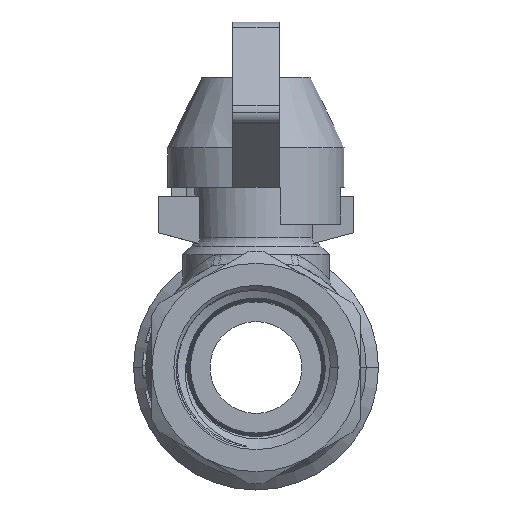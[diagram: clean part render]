
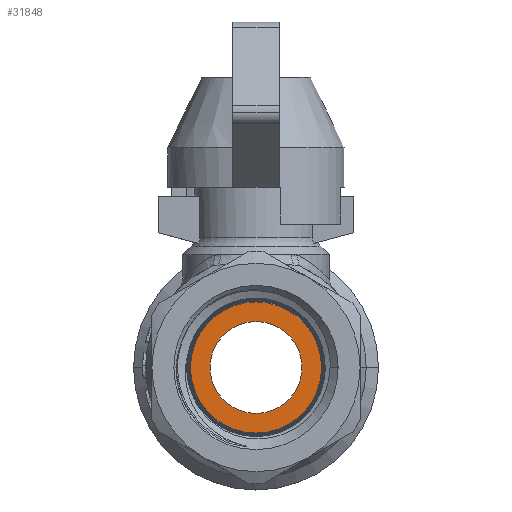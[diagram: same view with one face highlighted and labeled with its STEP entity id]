
A CAD part, left-side view. The second image highlights one B-rep face of the part: STEP entity #31848.
In plain terms, the highlighted planar face has unit normal (-1, 0, 0).
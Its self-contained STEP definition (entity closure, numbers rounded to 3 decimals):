
#5538 = VERTEX_POINT('',#5539);
#5539 = CARTESIAN_POINT('',(-9.,3.379,
    -2.339));
#5548 = CONICAL_SURFACE('',#5549,5.671,0.031);
#5549 = AXIS2_PLACEMENT_3D('',#5550,#5551,#5552);
#5550 = CARTESIAN_POINT('',(-19.468,8.73,
    -2.339));
#5551 = DIRECTION('',(-1.,0.,0.));
#5552 = DIRECTION('',(-0.,-1.,0.));
#5560 = CONICAL_SURFACE('',#5561,5.671,0.031);
#5561 = AXIS2_PLACEMENT_3D('',#5562,#5563,#5564);
#5562 = CARTESIAN_POINT('',(-19.468,8.73,
    -2.339));
#5563 = DIRECTION('',(-1.,0.,0.));
#5564 = DIRECTION('',(-0.,-1.,0.));
#5811 = VERTEX_POINT('',#5812);
#5812 = CARTESIAN_POINT('',(-9.,14.082,
    -2.339));
#5833 = EDGE_CURVE('',#5811,#5538,#5834,.T.);
#5834 = SURFACE_CURVE('',#5835,(#5840,#5847),.PCURVE_S1.);
#5835 = CIRCLE('',#5836,5.351);
#5836 = AXIS2_PLACEMENT_3D('',#5837,#5838,#5839);
#5837 = CARTESIAN_POINT('',(-9.,8.73,
    -2.339));
#5838 = DIRECTION('',(-1.,0.,0.));
#5839 = DIRECTION('',(-0.,-1.,0.));
#5840 = PCURVE('',#5548,#5841);
#5841 = DEFINITIONAL_REPRESENTATION('',(#5842),#5846);
#5842 = LINE('',#5843,#5844);
#5843 = CARTESIAN_POINT('',(0.,-10.468));
#5844 = VECTOR('',#5845,1.);
#5845 = DIRECTION('',(1.,0.));
#5846 = ( GEOMETRIC_REPRESENTATION_CONTEXT(2) 
PARAMETRIC_REPRESENTATION_CONTEXT() REPRESENTATION_CONTEXT('2D SPACE',''
  ) );
#5847 = PCURVE('',#5848,#5853);
#5848 = PLANE('',#5849);
#5849 = AXIS2_PLACEMENT_3D('',#5850,#5851,#5852);
#5850 = CARTESIAN_POINT('',(-9.,8.73,
    -2.339));
#5851 = DIRECTION('',(1.,0.,0.));
#5852 = DIRECTION('',(-0.,1.,0.));
#5853 = DEFINITIONAL_REPRESENTATION('',(#5854),#5862);
#5854 = ( BOUNDED_CURVE() B_SPLINE_CURVE(2,(#5855,#5856,#5857,#5858,
#5859,#5860,#5861),.UNSPECIFIED.,.T.,.F.) B_SPLINE_CURVE_WITH_KNOTS((1,2
    ,2,2,2,1),(-2.094,0.,2.094,4.189,
6.283,8.378),.UNSPECIFIED.) CURVE() 
GEOMETRIC_REPRESENTATION_ITEM() RATIONAL_B_SPLINE_CURVE((1.,0.5,1.,0.5,
1.,0.5,1.)) REPRESENTATION_ITEM('') );
#5855 = CARTESIAN_POINT('',(-5.351,0.));
#5856 = CARTESIAN_POINT('',(-5.351,9.269));
#5857 = CARTESIAN_POINT('',(2.676,4.635));
#5858 = CARTESIAN_POINT('',(10.703,0.));
#5859 = CARTESIAN_POINT('',(2.676,-4.635));
#5860 = CARTESIAN_POINT('',(-5.351,-9.269));
#5861 = CARTESIAN_POINT('',(-5.351,0.));
#5862 = ( GEOMETRIC_REPRESENTATION_CONTEXT(2) 
PARAMETRIC_REPRESENTATION_CONTEXT() REPRESENTATION_CONTEXT('2D SPACE',''
  ) );
#11967 = VERTEX_POINT('',#11968);
#11968 = CARTESIAN_POINT('',(-9.,4.98,
    -2.339));
#11975 = CYLINDRICAL_SURFACE('',#11976,3.75);
#11976 = AXIS2_PLACEMENT_3D('',#11977,#11978,#11979);
#11977 = CARTESIAN_POINT('',(-20.5,8.73,
    -2.339));
#11978 = DIRECTION('',(-1.,0.,0.));
#11979 = DIRECTION('',(-0.,-1.,0.));
#11987 = CYLINDRICAL_SURFACE('',#11988,3.75);
#11988 = AXIS2_PLACEMENT_3D('',#11989,#11990,#11991);
#11989 = CARTESIAN_POINT('',(-20.5,8.73,
    -2.339));
#11990 = DIRECTION('',(-1.,0.,0.));
#11991 = DIRECTION('',(-0.,-1.,0.));
#11999 = EDGE_CURVE('',#12000,#11967,#12002,.T.);
#12000 = VERTEX_POINT('',#12001);
#12001 = CARTESIAN_POINT('',(-9.,12.48,
    -2.339));
#12002 = SURFACE_CURVE('',#12003,(#12008,#12015),.PCURVE_S1.);
#12003 = CIRCLE('',#12004,3.75);
#12004 = AXIS2_PLACEMENT_3D('',#12005,#12006,#12007);
#12005 = CARTESIAN_POINT('',(-9.,8.73,
    -2.339));
#12006 = DIRECTION('',(-1.,0.,0.));
#12007 = DIRECTION('',(-0.,-1.,0.));
#12008 = PCURVE('',#11975,#12009);
#12009 = DEFINITIONAL_REPRESENTATION('',(#12010),#12014);
#12010 = LINE('',#12011,#12012);
#12011 = CARTESIAN_POINT('',(0.,-11.5));
#12012 = VECTOR('',#12013,1.);
#12013 = DIRECTION('',(1.,0.));
#12014 = ( GEOMETRIC_REPRESENTATION_CONTEXT(2) 
PARAMETRIC_REPRESENTATION_CONTEXT() REPRESENTATION_CONTEXT('2D SPACE',''
  ) );
#12015 = PCURVE('',#5848,#12016);
#12016 = DEFINITIONAL_REPRESENTATION('',(#12017),#12025);
#12017 = ( BOUNDED_CURVE() B_SPLINE_CURVE(2,(#12018,#12019,#12020,#12021
    ,#12022,#12023,#12024),.UNSPECIFIED.,.T.,.F.) 
B_SPLINE_CURVE_WITH_KNOTS((1,2,2,2,2,1),(-2.094,0.,
    2.094,4.189,6.283,8.378),
.UNSPECIFIED.) CURVE() GEOMETRIC_REPRESENTATION_ITEM() 
RATIONAL_B_SPLINE_CURVE((1.,0.5,1.,0.5,1.,0.5,1.)) REPRESENTATION_ITEM(
  '') );
#12018 = CARTESIAN_POINT('',(-3.75,0.));
#12019 = CARTESIAN_POINT('',(-3.75,6.495));
#12020 = CARTESIAN_POINT('',(1.875,3.248));
#12021 = CARTESIAN_POINT('',(7.5,0.));
#12022 = CARTESIAN_POINT('',(1.875,-3.248));
#12023 = CARTESIAN_POINT('',(-3.75,-6.495));
#12024 = CARTESIAN_POINT('',(-3.75,0.));
#12025 = ( GEOMETRIC_REPRESENTATION_CONTEXT(2) 
PARAMETRIC_REPRESENTATION_CONTEXT() REPRESENTATION_CONTEXT('2D SPACE',''
  ) );
#31823 = EDGE_CURVE('',#11967,#12000,#31824,.T.);
#31824 = SURFACE_CURVE('',#31825,(#31830,#31837),.PCURVE_S1.);
#31825 = CIRCLE('',#31826,3.75);
#31826 = AXIS2_PLACEMENT_3D('',#31827,#31828,#31829);
#31827 = CARTESIAN_POINT('',(-9.,8.73,
    -2.339));
#31828 = DIRECTION('',(-1.,0.,0.));
#31829 = DIRECTION('',(-0.,-1.,0.));
#31830 = PCURVE('',#11987,#31831);
#31831 = DEFINITIONAL_REPRESENTATION('',(#31832),#31836);
#31832 = LINE('',#31833,#31834);
#31833 = CARTESIAN_POINT('',(0.,-11.5));
#31834 = VECTOR('',#31835,1.);
#31835 = DIRECTION('',(1.,0.));
#31836 = ( GEOMETRIC_REPRESENTATION_CONTEXT(2) 
PARAMETRIC_REPRESENTATION_CONTEXT() REPRESENTATION_CONTEXT('2D SPACE',''
  ) );
#31837 = PCURVE('',#5848,#31838);
#31838 = DEFINITIONAL_REPRESENTATION('',(#31839),#31847);
#31839 = ( BOUNDED_CURVE() B_SPLINE_CURVE(2,(#31840,#31841,#31842,#31843
    ,#31844,#31845,#31846),.UNSPECIFIED.,.T.,.F.) 
B_SPLINE_CURVE_WITH_KNOTS((1,2,2,2,2,1),(-2.094,0.,
    2.094,4.189,6.283,8.378),
.UNSPECIFIED.) CURVE() GEOMETRIC_REPRESENTATION_ITEM() 
RATIONAL_B_SPLINE_CURVE((1.,0.5,1.,0.5,1.,0.5,1.)) REPRESENTATION_ITEM(
  '') );
#31840 = CARTESIAN_POINT('',(-3.75,0.));
#31841 = CARTESIAN_POINT('',(-3.75,6.495));
#31842 = CARTESIAN_POINT('',(1.875,3.248));
#31843 = CARTESIAN_POINT('',(7.5,0.));
#31844 = CARTESIAN_POINT('',(1.875,-3.248));
#31845 = CARTESIAN_POINT('',(-3.75,-6.495));
#31846 = CARTESIAN_POINT('',(-3.75,0.));
#31847 = ( GEOMETRIC_REPRESENTATION_CONTEXT(2) 
PARAMETRIC_REPRESENTATION_CONTEXT() REPRESENTATION_CONTEXT('2D SPACE',''
  ) );
#31848 = ADVANCED_FACE('',(#31849,#31853),#5848,.F.);
#31849 = FACE_BOUND('',#31850,.T.);
#31850 = EDGE_LOOP('',(#31851,#31852));
#31851 = ORIENTED_EDGE('',*,*,#31823,.F.);
#31852 = ORIENTED_EDGE('',*,*,#11999,.F.);
#31853 = FACE_BOUND('',#31854,.T.);
#31854 = EDGE_LOOP('',(#31855,#31881));
#31855 = ORIENTED_EDGE('',*,*,#31856,.T.);
#31856 = EDGE_CURVE('',#5538,#5811,#31857,.T.);
#31857 = SURFACE_CURVE('',#31858,(#31863,#31874),.PCURVE_S1.);
#31858 = CIRCLE('',#31859,5.351);
#31859 = AXIS2_PLACEMENT_3D('',#31860,#31861,#31862);
#31860 = CARTESIAN_POINT('',(-9.,8.73,
    -2.339));
#31861 = DIRECTION('',(-1.,0.,0.));
#31862 = DIRECTION('',(-0.,-1.,0.));
#31863 = PCURVE('',#5848,#31864);
#31864 = DEFINITIONAL_REPRESENTATION('',(#31865),#31873);
#31865 = ( BOUNDED_CURVE() B_SPLINE_CURVE(2,(#31866,#31867,#31868,#31869
    ,#31870,#31871,#31872),.UNSPECIFIED.,.T.,.F.) 
B_SPLINE_CURVE_WITH_KNOTS((1,2,2,2,2,1),(-2.094,0.,
    2.094,4.189,6.283,8.378),
.UNSPECIFIED.) CURVE() GEOMETRIC_REPRESENTATION_ITEM() 
RATIONAL_B_SPLINE_CURVE((1.,0.5,1.,0.5,1.,0.5,1.)) REPRESENTATION_ITEM(
  '') );
#31866 = CARTESIAN_POINT('',(-5.351,0.));
#31867 = CARTESIAN_POINT('',(-5.351,9.269));
#31868 = CARTESIAN_POINT('',(2.676,4.635));
#31869 = CARTESIAN_POINT('',(10.703,0.));
#31870 = CARTESIAN_POINT('',(2.676,-4.635));
#31871 = CARTESIAN_POINT('',(-5.351,-9.269));
#31872 = CARTESIAN_POINT('',(-5.351,0.));
#31873 = ( GEOMETRIC_REPRESENTATION_CONTEXT(2) 
PARAMETRIC_REPRESENTATION_CONTEXT() REPRESENTATION_CONTEXT('2D SPACE',''
  ) );
#31874 = PCURVE('',#5560,#31875);
#31875 = DEFINITIONAL_REPRESENTATION('',(#31876),#31880);
#31876 = LINE('',#31877,#31878);
#31877 = CARTESIAN_POINT('',(0.,-10.468));
#31878 = VECTOR('',#31879,1.);
#31879 = DIRECTION('',(1.,0.));
#31880 = ( GEOMETRIC_REPRESENTATION_CONTEXT(2) 
PARAMETRIC_REPRESENTATION_CONTEXT() REPRESENTATION_CONTEXT('2D SPACE',''
  ) );
#31881 = ORIENTED_EDGE('',*,*,#5833,.T.);
